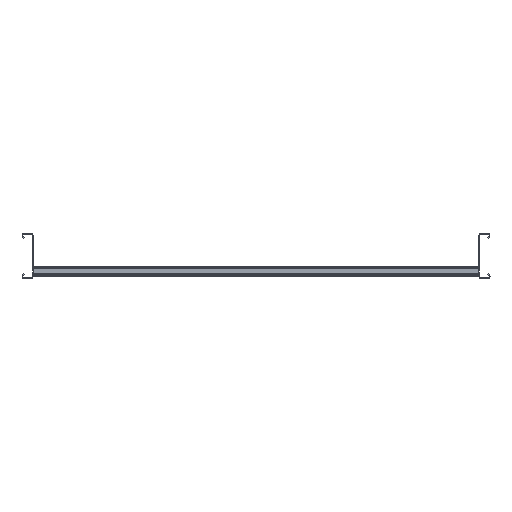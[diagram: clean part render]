
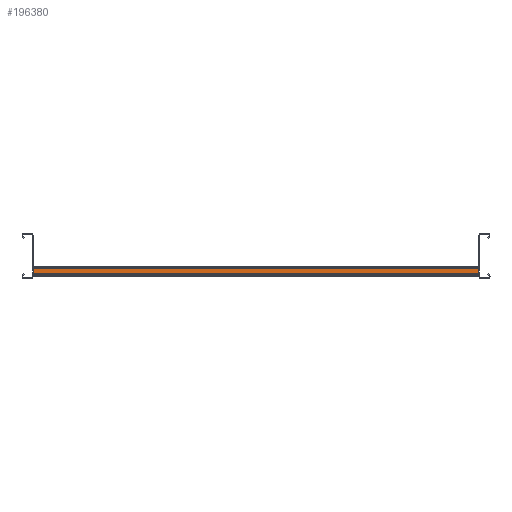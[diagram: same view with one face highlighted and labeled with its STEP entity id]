
A CAD part, left-side view. The second image highlights one B-rep face of the part: STEP entity #196380.
In plain terms, the highlighted planar face has unit normal (-1, 0, 0).
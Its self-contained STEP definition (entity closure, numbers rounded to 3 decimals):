
#195990=CARTESIAN_POINT('',(0.25,878.,0.));
#196000=DIRECTION('',(-1.,0.,0.));
#196010=DIRECTION('',(0.,1.,0.));
#196020=AXIS2_PLACEMENT_3D('',#195990,#196000,#196010);
#196030=PLANE('',#196020);
#196040=CARTESIAN_POINT('',(0.25,0.,-200.));
#196050=DIRECTION('',(0.,1.,0.));
#196060=VECTOR('',#196050,1.);
#196070=LINE('',#196040,#196060);
#196080=CARTESIAN_POINT('',(0.25,881.,-200.));
#196090=VERTEX_POINT('',#196080);
#196100=CARTESIAN_POINT('',(0.25,897.,-200.));
#196110=VERTEX_POINT('',#196100);
#196120=EDGE_CURVE('',#196090,#196110,#196070,.T.);
#196130=ORIENTED_EDGE('',*,*,#196120,.F.);
#196140=CARTESIAN_POINT('',(0.25,897.,0.));
#196150=DIRECTION('',(0.,0.,1.));
#196160=VECTOR('',#196150,1.);
#196170=LINE('',#196140,#196160);
#196180=CARTESIAN_POINT('',(0.25,897.,800.));
#196190=VERTEX_POINT('',#196180);
#196200=EDGE_CURVE('',#196110,#196190,#196170,.T.);
#196210=ORIENTED_EDGE('',*,*,#196200,.F.);
#196220=CARTESIAN_POINT('',(0.25,0.,800.
));
#196230=DIRECTION('',(0.,-1.,0.));
#196240=VECTOR('',#196230,1.);
#196250=LINE('',#196220,#196240);
#196260=CARTESIAN_POINT('',(0.25,881.,800.));
#196270=VERTEX_POINT('',#196260);
#196280=EDGE_CURVE('',#196190,#196270,#196250,.T.);
#196290=ORIENTED_EDGE('',*,*,#196280,.F.);
#196300=CARTESIAN_POINT('',(0.25,881.,0.));
#196310=DIRECTION('',(0.,0.,1.));
#196320=VECTOR('',#196310,1.);
#196330=LINE('',#196300,#196320);
#196340=EDGE_CURVE('',#196090,#196270,#196330,.T.);
#196350=ORIENTED_EDGE('',*,*,#196340,.T.);
#196360=EDGE_LOOP('',(#196350,#196290,#196210,#196130));
#196370=FACE_OUTER_BOUND('',#196360,.T.);
#196380=ADVANCED_FACE('',(#196370),#196030,.T.);
